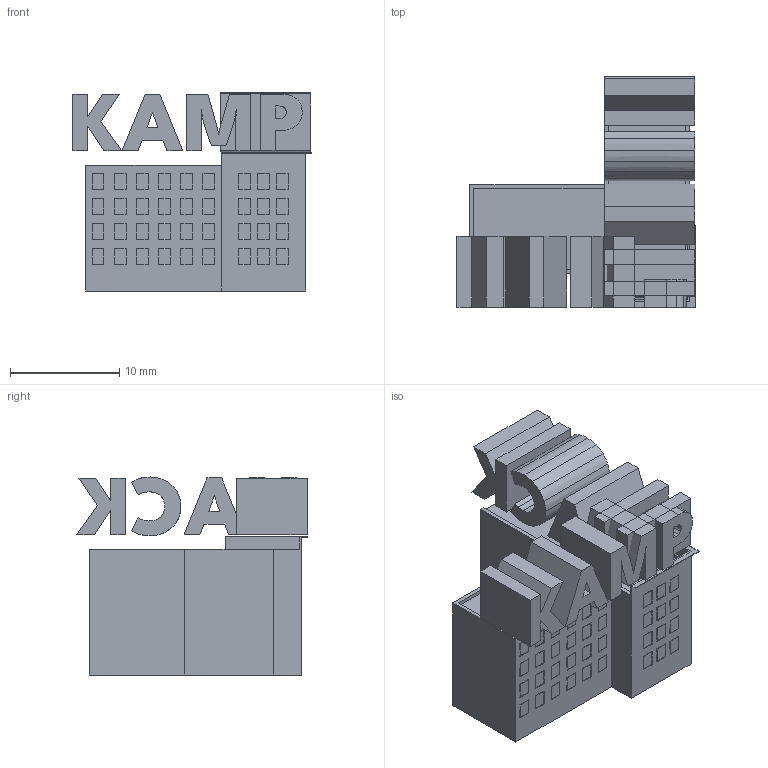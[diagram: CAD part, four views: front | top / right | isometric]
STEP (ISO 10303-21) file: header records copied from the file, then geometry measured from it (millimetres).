
FILE_DESCRIPTION(/* description */ (''),/* implementation_level */ '2;1');
FILE_NAME(/* name */ 'kamphack logo 2 v6.step',/* time_stamp */ '2024-04-29T19:38:09+02:00',/* author */ (''),/* organization */ (''),/* preprocessor_version */ 'ST-DEVELOPER v20',/* originating_system */ 'Autodesk Translation Framework v12.20.1.177',/* authorisation */ '');
FILE_SCHEMA (('AUTOMOTIVE_DESIGN { 1 0 10303 214 3 1 1 }'));
Length unit declared in the file: millimetre
Products named in the file (3): kamphack logo 2; Component1; Component2
Assembly tree (2 placements, depth 2):
  kamphack logo 2
    Component1
    Component2
Bounding box: 21.83 x 21.13 x 18.14 mm (x, y, z)
Volume: 3690.5 mm3; surface area: 3211.6 mm2
Topology: 9 solids, 9 shells, 525 faces, 1305 edges, 870 vertices
Faces by surface type: plane 489, bspline 36
Entity records: 16232 total; most frequent: CARTESIAN_POINT 3822, ORIENTED_EDGE 2610, DIRECTION 2223, EDGE_CURVE 1305, LINE 1233, VECTOR 1233, VERTEX_POINT 870, EDGE_LOOP 603
